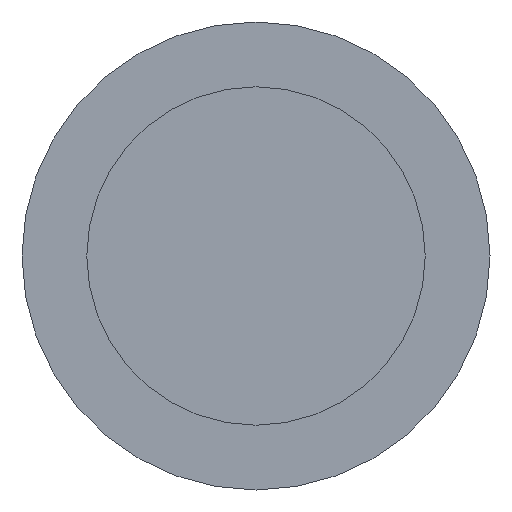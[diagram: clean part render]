
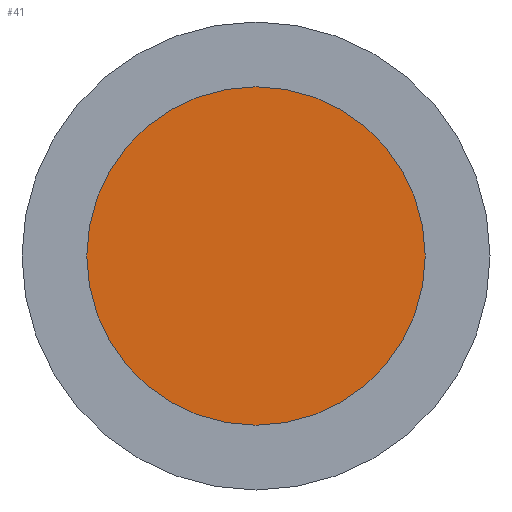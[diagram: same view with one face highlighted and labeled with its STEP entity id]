
A CAD part, front view. The second image highlights one B-rep face of the part: STEP entity #41.
In plain terms, the highlighted planar face has unit normal (0, -1, 0).
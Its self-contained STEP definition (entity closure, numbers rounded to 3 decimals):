
#41 = ADVANCED_FACE( '', ( #81 ), #82, .F. );
#81 = FACE_OUTER_BOUND( '', #114, .T. );
#82 = PLANE( '', #115 );
#114 = EDGE_LOOP( '', ( #151 ) );
#115 = AXIS2_PLACEMENT_3D( '', #152, #153, #154 );
#151 = ORIENTED_EDGE( '', *, *, #163, .F. );
#152 = CARTESIAN_POINT( '', ( 0., -2., 0. ) );
#153 = DIRECTION( '', ( 0., 1., 0. ) );
#154 = DIRECTION( '', ( 0., 0., 1. ) );
#163 = EDGE_CURVE( '', #177, #177, #178, .T. );
#177 = VERTEX_POINT( '', #196 );
#178 = CIRCLE( '', #197, 23.5 );
#196 = CARTESIAN_POINT( '', ( 0., -2., 23.5 ) );
#197 = AXIS2_PLACEMENT_3D( '', #215, #216, #217 );
#215 = CARTESIAN_POINT( '', ( 0., -2., 0. ) );
#216 = DIRECTION( '', ( 0., 1., 0. ) );
#217 = DIRECTION( '', ( 0., 0., 1. ) );
